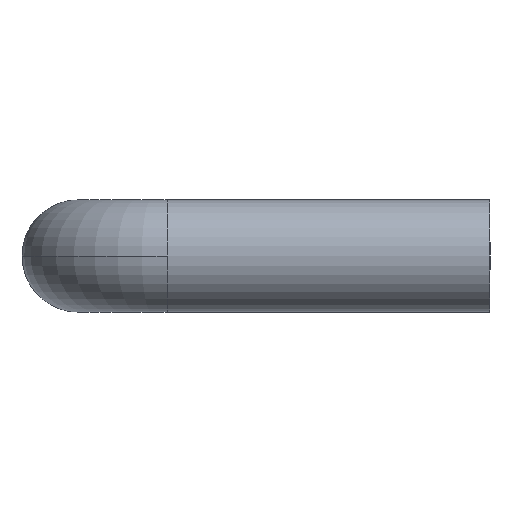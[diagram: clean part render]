
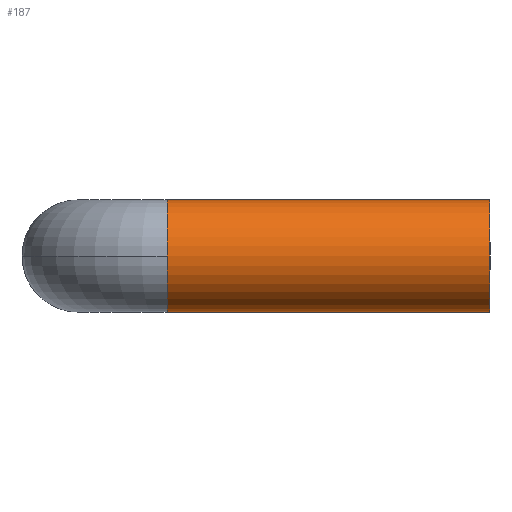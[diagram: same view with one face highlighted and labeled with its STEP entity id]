
A CAD part, left-side view. The second image highlights one B-rep face of the part: STEP entity #187.
In plain terms, the highlighted cylindrical face has radius 6 mm (diameter 12 mm), a partial arc.
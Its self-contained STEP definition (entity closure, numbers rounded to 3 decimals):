
#20 = CARTESIAN_POINT ( 'NONE',  ( -94., -9.5, 0. ) ) ;
#43 = DIRECTION ( 'NONE',  ( 0., 0., -1. ) ) ;
#59 = DIRECTION ( 'NONE',  ( 0., -1., 0. ) ) ;
#72 = CARTESIAN_POINT ( 'NONE',  ( -94., -9.5, 0. ) ) ;
#73 = DIRECTION ( 'NONE',  ( 0., 1., 0. ) ) ;
#74 = DIRECTION ( 'NONE',  ( -1., 0., 0. ) ) ;
#88 = CARTESIAN_POINT ( 'NONE',  ( -94., -44., 0. ) ) ;
#89 = DIRECTION ( 'NONE',  ( 0., 1., 0. ) ) ;
#90 = DIRECTION ( 'NONE',  ( -1., 0., 0. ) ) ;
#106 = CARTESIAN_POINT ( 'NONE',  ( -94., -9.5, 0. ) ) ;
#107 = DIRECTION ( 'NONE',  ( 0., 1., 0. ) ) ;
#108 = DIRECTION ( 'NONE',  ( -1., 0., 0. ) ) ;
#113 = CARTESIAN_POINT ( 'NONE',  ( -94., -9.5, -6. ) ) ;
#123 = CARTESIAN_POINT ( 'NONE',  ( -100., -9.5, 0. ) ) ;
#127 = CARTESIAN_POINT ( 'NONE',  ( -94., -44., -6. ) ) ;
#133 = CARTESIAN_POINT ( 'NONE',  ( -94., -44., 6. ) ) ;
#134 = CARTESIAN_POINT ( 'NONE',  ( -94., -9.5, 6. ) ) ;
#143 = DIRECTION ( 'NONE',  ( 0., -1., 0. ) ) ;
#148 = CARTESIAN_POINT ( 'NONE',  ( -94., -9.5, -6. ) ) ;
#149 = DIRECTION ( 'NONE',  ( 0., -1., 0. ) ) ;
#155 = CARTESIAN_POINT ( 'NONE',  ( -94., -9.5, 6. ) ) ;
#187 = ADVANCED_FACE ( 'NONE', ( #354 ), #356, .T. ) ;
#232 = EDGE_LOOP ( 'NONE', ( #276, #277, #278, #279, #280 ) ) ;
#276 = ORIENTED_EDGE ( 'NONE', *, *, #513, .F. ) ;
#277 = ORIENTED_EDGE ( 'NONE', *, *, #294, .F. ) ;
#278 = ORIENTED_EDGE ( 'NONE', *, *, #283, .F. ) ;
#279 = ORIENTED_EDGE ( 'NONE', *, *, #511, .T. ) ;
#280 = ORIENTED_EDGE ( 'NONE', *, *, #288, .T. ) ;
#283 = EDGE_CURVE ( 'NONE', #454, #464, #379, .T. ) ;
#288 = EDGE_CURVE ( 'NONE', #469, #475, #389, .T. ) ;
#294 = EDGE_CURVE ( 'NONE', #464, #476, #395, .T. ) ;
#303 = AXIS2_PLACEMENT_3D ( 'NONE', #20, #59, #43 ) ;
#321 = AXIS2_PLACEMENT_3D ( 'NONE', #72, #73, #74 ) ;
#326 = AXIS2_PLACEMENT_3D ( 'NONE', #88, #89, #90 ) ;
#331 = AXIS2_PLACEMENT_3D ( 'NONE', #106, #107, #108 ) ;
#354 = FACE_OUTER_BOUND ( 'NONE', #232, .T. ) ;
#356 = CYLINDRICAL_SURFACE ( 'NONE', #303, 6. ) ;
#379 = CIRCLE ( 'NONE', #321, 6. ) ;
#389 = CIRCLE ( 'NONE', #326, 6. ) ;
#395 = CIRCLE ( 'NONE', #331, 6. ) ;
#401 = LINE ( 'NONE', #155, #413 ) ;
#408 = LINE ( 'NONE', #148, #410 ) ;
#410 = VECTOR ( 'NONE', #143, 1000. ) ;
#413 = VECTOR ( 'NONE', #149, 1000. ) ;
#454 = VERTEX_POINT ( 'NONE', #113 ) ;
#464 = VERTEX_POINT ( 'NONE', #123 ) ;
#469 = VERTEX_POINT ( 'NONE', #127 ) ;
#475 = VERTEX_POINT ( 'NONE', #133 ) ;
#476 = VERTEX_POINT ( 'NONE', #134 ) ;
#511 = EDGE_CURVE ( 'NONE', #454, #469, #408, .T. ) ;
#513 = EDGE_CURVE ( 'NONE', #476, #475, #401, .T. ) ;
